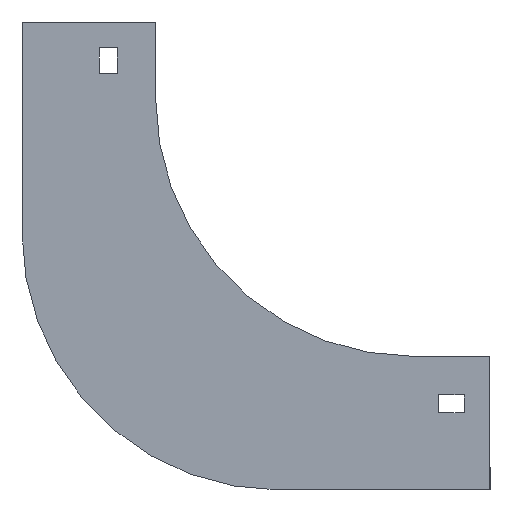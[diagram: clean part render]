
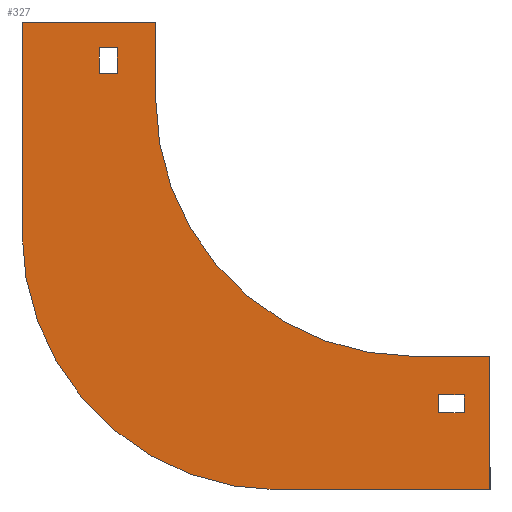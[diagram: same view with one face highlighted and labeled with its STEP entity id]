
A CAD part, left-side view. The second image highlights one B-rep face of the part: STEP entity #327.
In plain terms, the highlighted planar face has unit normal (-1, 0, 0).
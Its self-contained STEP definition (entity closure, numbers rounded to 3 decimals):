
#13 = VERTEX_POINT ( 'NONE', #1243 ) ;
#15 = CARTESIAN_POINT ( 'NONE',  ( -202., -130., -182. ) ) ;
#29 = CARTESIAN_POINT ( 'NONE',  ( -202., -120., -145. ) ) ;
#32 = EDGE_LOOP ( 'NONE', ( #682, #1367, #777, #1141 ) ) ;
#47 = VERTEX_POINT ( 'NONE', #710 ) ;
#48 = LINE ( 'NONE', #784, #401 ) ;
#52 = VECTOR ( 'NONE', #773, 1000. ) ;
#71 = CARTESIAN_POINT ( 'NONE',  ( -202., -100., -130. ) ) ;
#83 = VECTOR ( 'NONE', #497, 1000. ) ;
#84 = LINE ( 'NONE', #310, #351 ) ;
#88 = DIRECTION ( 'NONE',  ( -1., 0., 0. ) ) ;
#111 = ORIENTED_EDGE ( 'NONE', *, *, #1317, .F. ) ;
#124 = DIRECTION ( 'NONE',  ( 0., 0., 1. ) ) ;
#152 = CARTESIAN_POINT ( 'NONE',  ( -202., 15., -10. ) ) ;
#171 = LINE ( 'NONE', #605, #1216 ) ;
#190 = LINE ( 'NONE', #621, #686 ) ;
#192 = EDGE_CURVE ( 'NONE', #1083, #212, #313, .T. ) ;
#197 = DIRECTION ( 'NONE',  ( 0., 0., 1. ) ) ;
#201 = CIRCLE ( 'NONE', #533, 100. ) ;
#212 = VERTEX_POINT ( 'NONE', #152 ) ;
#213 = ORIENTED_EDGE ( 'NONE', *, *, #567, .T. ) ;
#222 = DIRECTION ( 'NONE',  ( 0., 0., -1. ) ) ;
#226 = AXIS2_PLACEMENT_3D ( 'NONE', #619, #88, #1033 ) ;
#245 = VERTEX_POINT ( 'NONE', #29 ) ;
#252 = ORIENTED_EDGE ( 'NONE', *, *, #1079, .T. ) ;
#256 = DIRECTION ( 'NONE',  ( 0., 0., 1. ) ) ;
#284 = EDGE_LOOP ( 'NONE', ( #475, #366, #300, #963, #111, #562, #585, #1057 ) ) ;
#294 = DIRECTION ( 'NONE',  ( 0., 0., -1. ) ) ;
#300 = ORIENTED_EDGE ( 'NONE', *, *, #1261, .F. ) ;
#308 = CARTESIAN_POINT ( 'NONE',  ( -202., 0., 0. ) ) ;
#310 = CARTESIAN_POINT ( 'NONE',  ( -202., -120., -152. ) ) ;
#313 = LINE ( 'NONE', #730, #1157 ) ;
#315 = EDGE_CURVE ( 'NONE', #245, #964, #921, .T. ) ;
#323 = VECTOR ( 'NONE', #716, 1000. ) ;
#327 = ADVANCED_FACE ( 'NONE', ( #635, #715, #719 ), #825, .T. ) ;
#338 = LINE ( 'NONE', #558, #52 ) ;
#351 = VECTOR ( 'NONE', #197, 1000. ) ;
#358 = VERTEX_POINT ( 'NONE', #810 ) ;
#366 = ORIENTED_EDGE ( 'NONE', *, *, #988, .F. ) ;
#374 = DIRECTION ( 'NONE',  ( 0., 0., -1. ) ) ;
#375 = LINE ( 'NONE', #1198, #711 ) ;
#390 = EDGE_CURVE ( 'NONE', #1263, #501, #171, .T. ) ;
#396 = CARTESIAN_POINT ( 'NONE',  ( -202., -120., -152. ) ) ;
#401 = VECTOR ( 'NONE', #900, 1000. ) ;
#404 = CARTESIAN_POINT ( 'NONE',  ( -202., -130., -130. ) ) ;
#434 = EDGE_LOOP ( 'NONE', ( #929, #213, #1088, #252 ) ) ;
#454 = CARTESIAN_POINT ( 'NONE',  ( -202., -48., -182. ) ) ;
#457 = VERTEX_POINT ( 'NONE', #1237 ) ;
#463 = EDGE_CURVE ( 'NONE', #457, #512, #1339, .T. ) ;
#464 = DIRECTION ( 'NONE',  ( 0., -1., 0. ) ) ;
#475 = ORIENTED_EDGE ( 'NONE', *, *, #390, .F. ) ;
#483 = EDGE_CURVE ( 'NONE', #653, #47, #1148, .T. ) ;
#497 = DIRECTION ( 'NONE',  ( 0., 1., 0. ) ) ;
#501 = VERTEX_POINT ( 'NONE', #308 ) ;
#512 = VERTEX_POINT ( 'NONE', #551 ) ;
#526 = EDGE_CURVE ( 'NONE', #13, #653, #201, .T. ) ;
#533 = AXIS2_PLACEMENT_3D ( 'NONE', #666, #1291, #124 ) ;
#551 = CARTESIAN_POINT ( 'NONE',  ( -202., -120., -152. ) ) ;
#558 = CARTESIAN_POINT ( 'NONE',  ( -202., 15., -10. ) ) ;
#562 = ORIENTED_EDGE ( 'NONE', *, *, #483, .F. ) ;
#567 = EDGE_CURVE ( 'NONE', #212, #1181, #338, .T. ) ;
#573 = VERTEX_POINT ( 'NONE', #454 ) ;
#585 = ORIENTED_EDGE ( 'NONE', *, *, #526, .F. ) ;
#602 = CARTESIAN_POINT ( 'NONE',  ( -202., 15., -20. ) ) ;
#603 = VERTEX_POINT ( 'NONE', #1050 ) ;
#605 = CARTESIAN_POINT ( 'NONE',  ( -202., 52., 0. ) ) ;
#619 = CARTESIAN_POINT ( 'NONE',  ( -202., -100., -30. ) ) ;
#621 = CARTESIAN_POINT ( 'NONE',  ( -202., 22., -10. ) ) ;
#627 = LINE ( 'NONE', #1034, #867 ) ;
#635 = FACE_BOUND ( 'NONE', #434, .T. ) ;
#653 = VERTEX_POINT ( 'NONE', #674 ) ;
#666 = CARTESIAN_POINT ( 'NONE',  ( -202., -100., -30. ) ) ;
#674 = CARTESIAN_POINT ( 'NONE',  ( -202., -100., -130. ) ) ;
#682 = ORIENTED_EDGE ( 'NONE', *, *, #315, .F. ) ;
#686 = VECTOR ( 'NONE', #1029, 1000. ) ;
#690 = DIRECTION ( 'NONE',  ( 1., 0., 0. ) ) ;
#692 = CARTESIAN_POINT ( 'NONE',  ( -202., -110., -145. ) ) ;
#707 = EDGE_CURVE ( 'NONE', #1181, #603, #48, .T. ) ;
#710 = CARTESIAN_POINT ( 'NONE',  ( -202., -130., -130. ) ) ;
#711 = VECTOR ( 'NONE', #256, 1000. ) ;
#715 = FACE_OUTER_BOUND ( 'NONE', #284, .T. ) ;
#716 = DIRECTION ( 'NONE',  ( 0., 0., -1. ) ) ;
#719 = FACE_BOUND ( 'NONE', #32, .T. ) ;
#720 = CARTESIAN_POINT ( 'NONE',  ( -202., 52., -82. ) ) ;
#725 = DIRECTION ( 'NONE',  ( 0., -1., 0. ) ) ;
#730 = CARTESIAN_POINT ( 'NONE',  ( -202., 22., -10. ) ) ;
#751 = EDGE_CURVE ( 'NONE', #358, #573, #1106, .T. ) ;
#773 = DIRECTION ( 'NONE',  ( 0., 0., -1. ) ) ;
#777 = ORIENTED_EDGE ( 'NONE', *, *, #463, .F. ) ;
#784 = CARTESIAN_POINT ( 'NONE',  ( -202., 22., -20. ) ) ;
#810 = CARTESIAN_POINT ( 'NONE',  ( -202., -130., -182. ) ) ;
#825 = PLANE ( 'NONE',  #226 ) ;
#839 = VECTOR ( 'NONE', #1125, 1000. ) ;
#845 = EDGE_CURVE ( 'NONE', #964, #457, #969, .T. ) ;
#858 = CARTESIAN_POINT ( 'NONE',  ( -202., 22., -10. ) ) ;
#867 = VECTOR ( 'NONE', #294, 1000. ) ;
#900 = DIRECTION ( 'NONE',  ( 0., 1., 0. ) ) ;
#914 = CIRCLE ( 'NONE', #1290, 100. ) ;
#921 = LINE ( 'NONE', #1126, #83 ) ;
#929 = ORIENTED_EDGE ( 'NONE', *, *, #192, .T. ) ;
#963 = ORIENTED_EDGE ( 'NONE', *, *, #751, .F. ) ;
#964 = VERTEX_POINT ( 'NONE', #692 ) ;
#969 = LINE ( 'NONE', #1054, #1147 ) ;
#988 = EDGE_CURVE ( 'NONE', #1284, #1263, #375, .T. ) ;
#1013 = DIRECTION ( 'NONE',  ( 0., -1., 0. ) ) ;
#1014 = VECTOR ( 'NONE', #725, 1000. ) ;
#1029 = DIRECTION ( 'NONE',  ( 0., 0., 1. ) ) ;
#1033 = DIRECTION ( 'NONE',  ( 0., 0., 1. ) ) ;
#1034 = CARTESIAN_POINT ( 'NONE',  ( -202., 0., 0. ) ) ;
#1037 = EDGE_CURVE ( 'NONE', #512, #245, #84, .T. ) ;
#1050 = CARTESIAN_POINT ( 'NONE',  ( -202., 22., -20. ) ) ;
#1054 = CARTESIAN_POINT ( 'NONE',  ( -202., -110., -152. ) ) ;
#1057 = ORIENTED_EDGE ( 'NONE', *, *, #1293, .F. ) ;
#1079 = EDGE_CURVE ( 'NONE', #603, #1083, #190, .T. ) ;
#1083 = VERTEX_POINT ( 'NONE', #858 ) ;
#1088 = ORIENTED_EDGE ( 'NONE', *, *, #707, .T. ) ;
#1106 = LINE ( 'NONE', #15, #1256 ) ;
#1107 = CARTESIAN_POINT ( 'NONE',  ( -202., 52., 0. ) ) ;
#1125 = DIRECTION ( 'NONE',  ( 0., -1., 0. ) ) ;
#1126 = CARTESIAN_POINT ( 'NONE',  ( -202., -120., -145. ) ) ;
#1141 = ORIENTED_EDGE ( 'NONE', *, *, #845, .F. ) ;
#1147 = VECTOR ( 'NONE', #222, 1000. ) ;
#1148 = LINE ( 'NONE', #71, #1014 ) ;
#1157 = VECTOR ( 'NONE', #464, 1000. ) ;
#1181 = VERTEX_POINT ( 'NONE', #602 ) ;
#1198 = CARTESIAN_POINT ( 'NONE',  ( -202., 52., -82. ) ) ;
#1203 = DIRECTION ( 'NONE',  ( 0., 1., 0. ) ) ;
#1216 = VECTOR ( 'NONE', #1013, 1000. ) ;
#1237 = CARTESIAN_POINT ( 'NONE',  ( -202., -110., -152. ) ) ;
#1243 = CARTESIAN_POINT ( 'NONE',  ( -202., 0., -30. ) ) ;
#1256 = VECTOR ( 'NONE', #1203, 1000. ) ;
#1261 = EDGE_CURVE ( 'NONE', #573, #1284, #914, .T. ) ;
#1263 = VERTEX_POINT ( 'NONE', #1107 ) ;
#1284 = VERTEX_POINT ( 'NONE', #720 ) ;
#1290 = AXIS2_PLACEMENT_3D ( 'NONE', #1341, #690, #374 ) ;
#1291 = DIRECTION ( 'NONE',  ( -1., 0., 0. ) ) ;
#1293 = EDGE_CURVE ( 'NONE', #501, #13, #627, .T. ) ;
#1317 = EDGE_CURVE ( 'NONE', #47, #358, #1347, .T. ) ;
#1339 = LINE ( 'NONE', #396, #839 ) ;
#1341 = CARTESIAN_POINT ( 'NONE',  ( -202., -48., -82. ) ) ;
#1347 = LINE ( 'NONE', #404, #323 ) ;
#1367 = ORIENTED_EDGE ( 'NONE', *, *, #1037, .F. ) ;
